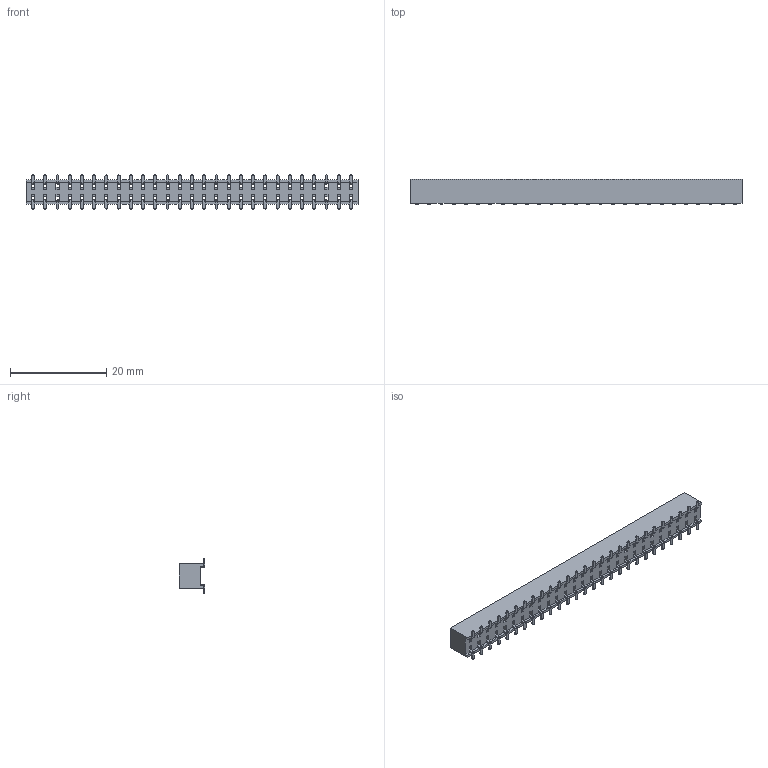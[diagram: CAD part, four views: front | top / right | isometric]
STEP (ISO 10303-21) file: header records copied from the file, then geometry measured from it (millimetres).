
FILE_DESCRIPTION (( 'STEP AP203' ), '1' );
FILE_NAME ('PM254-2-27-S-5.0-XX(L5.3) (2.54邧齬 齬譫 泂え 呿詢5.0-HCTL).STEP', '2026-04-20T09:15:10', ( '' ), ( '' ), 'SwSTEP 2.0', 'SolidWorks 2025', '' );
FILE_SCHEMA (( 'CONFIG_CONTROL_DESIGN' ));
Length unit declared in the file: millimetre
Products named in the file (1): PM254-2-27-S-5.0-XX(L5.3) (2.54双排 排母 贴片 塑高5.0-HCTL)
Bounding box: 68.98 x 5.3 x 7.1 mm (x, y, z)
Volume: 1463 mm3; surface area: 2360.1 mm2
Topology: 1 solids, 1 shells, 1212 faces, 3468 edges, 2204 vertices
Faces by surface type: plane 982, cylinder 230
Entity records: 39033 total; most frequent: ORIENTED_EDGE 6936, CARTESIAN_POINT 6885, DIRECTION 6354, EDGE_CURVE 3468, VECTOR 3008, LINE 3008, VERTEX_POINT 2204, AXIS2_PLACEMENT_3D 1673
